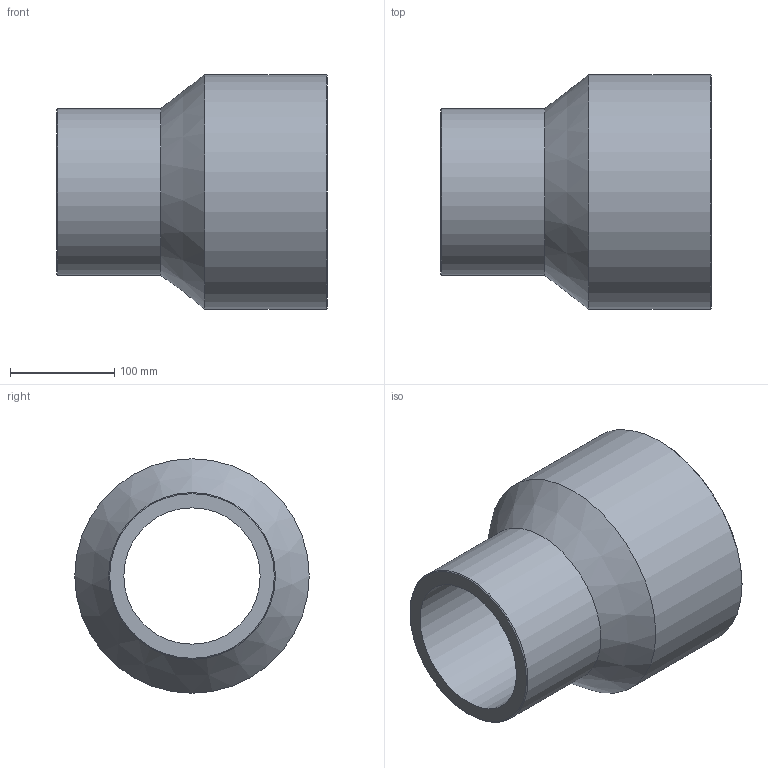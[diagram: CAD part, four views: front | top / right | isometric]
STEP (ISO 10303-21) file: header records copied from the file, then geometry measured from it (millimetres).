
FILE_DESCRIPTION(/* description */ ('Unknown'),/* implementation_level */ '2;1');
FILE_NAME(/* name */ 'RP225160C',/* time_stamp */ '2021-09-17T15:21:56+02:00',/* author */ ('Unknown'),/* organization */ ('Unknown'),/* preprocessor_version */ 'ST-DEVELOPER v16.7',/* originating_system */ 'Solid Edge',/* authorisation */ 'Unknown');
FILE_SCHEMA (('AUTOMOTIVE_DESIGN {1 0 10303 214 3 1 1}'));
Length unit declared in the file: millimetre
Products named in the file (1): RP225160C
Bounding box: 260 x 225 x 225 mm (x, y, z)
Volume: 2745524.9 mm3; surface area: 317818.1 mm2
Topology: 1 solids, 1 shells, 10 faces, 19 edges, 11 vertices
Faces by surface type: cylinder 4, cone 4, plane 2
Full cylindrical faces by diameter (mm): 130.8 x1, 160 x1, 184 x1, 225 x1
Entity records: 238 total; most frequent: DIRECTION 42, CARTESIAN_POINT 31, AXIS2_PLACEMENT_3D 21, ORIENTED_EDGE 20, EDGE_LOOP 20, FACE_BOUND 20, EDGE_CURVE 10, VERTEX_POINT 10
